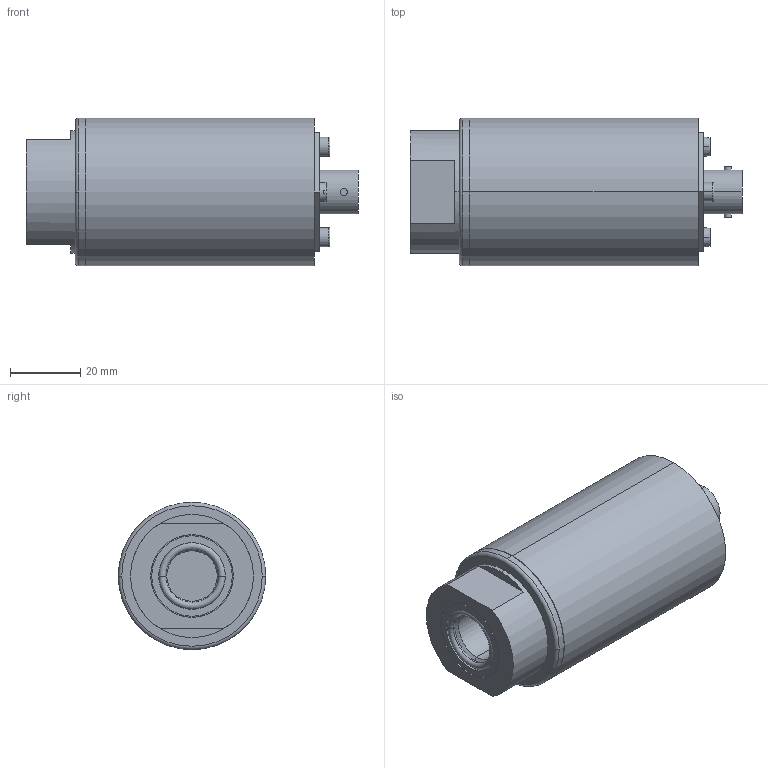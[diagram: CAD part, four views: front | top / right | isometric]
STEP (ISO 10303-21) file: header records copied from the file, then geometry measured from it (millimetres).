
FILE_DESCRIPTION(('STEP AP203'),'1');
FILE_NAME('C:/TPO v2/SharedFS/Outgoing/burster_8201-5100-h021a_9czo9awli8w97p15q5jykvr3u.stp','2013-08-27T16:57:42',('TraceParts'),('TraceParts S.A.'),'XStep 1.0',' ',' ');
FILE_SCHEMA(('CONFIG_CONTROL_DESIGN'));
Length unit declared in the file: millimetre
Products named in the file (1): 1
Bounding box: 94.5 x 42 x 42 mm (x, y, z)
Volume: 104174.1 mm3; surface area: 16239.6 mm2
Topology: 1 solids, 2 shells, 127 faces, 297 edges, 188 vertices
Faces by surface type: plane 49, cylinder 36, cone 26, torus 16
Entity records: 3858 total; most frequent: CARTESIAN_POINT 949, DIRECTION 632, ORIENTED_EDGE 590, EDGE_CURVE 291, AXIS2_PLACEMENT_3D 271, VERTEX_POINT 188, EDGE_LOOP 149, CIRCLE 143
